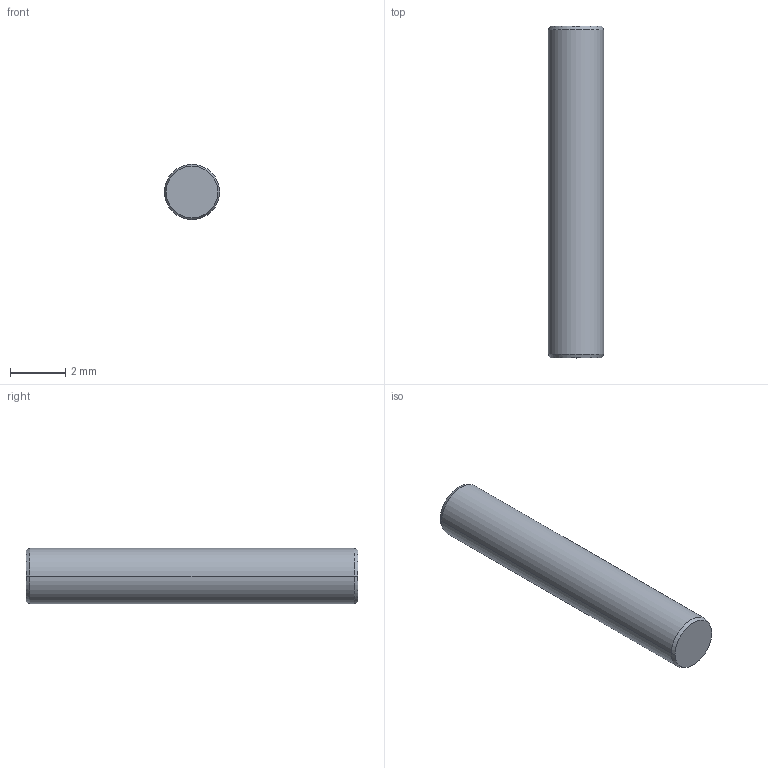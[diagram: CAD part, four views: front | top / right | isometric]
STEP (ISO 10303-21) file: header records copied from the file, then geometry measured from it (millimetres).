
FILE_DESCRIPTION((''),'2;1');
FILE_NAME('PIN','2024-02-21T17:12:55',('qinghui.yi'),(''),'CREO PARAMETRIC BY PTC INC, 2019164','CREO PARAMETRIC BY PTC INC, 2019164','');
FILE_SCHEMA(('CONFIG_CONTROL_DESIGN','SHAPE_APPEARANCE_LAYERS_GROUPS'));
Length unit declared in the file: millimetre
Products named in the file (1): PIN
Bounding box: 2 x 12 x 2 mm (x, y, z)
Volume: 37.7 mm3; surface area: 81.1 mm2
Topology: 1 solids, 1 shells, 8 faces, 17 edges, 14 vertices
Faces by surface type: cone 4, plane 2, cylinder 2
Entity records: 593 total; most frequent: COLOUR_RGB 312, DIRECTION 43, CARTESIAN_POINT 34, ORIENTED_EDGE 28, AXIS2_PLACEMENT_3D 17, EDGE_CURVE 14, VECTOR 9, LINE 9
